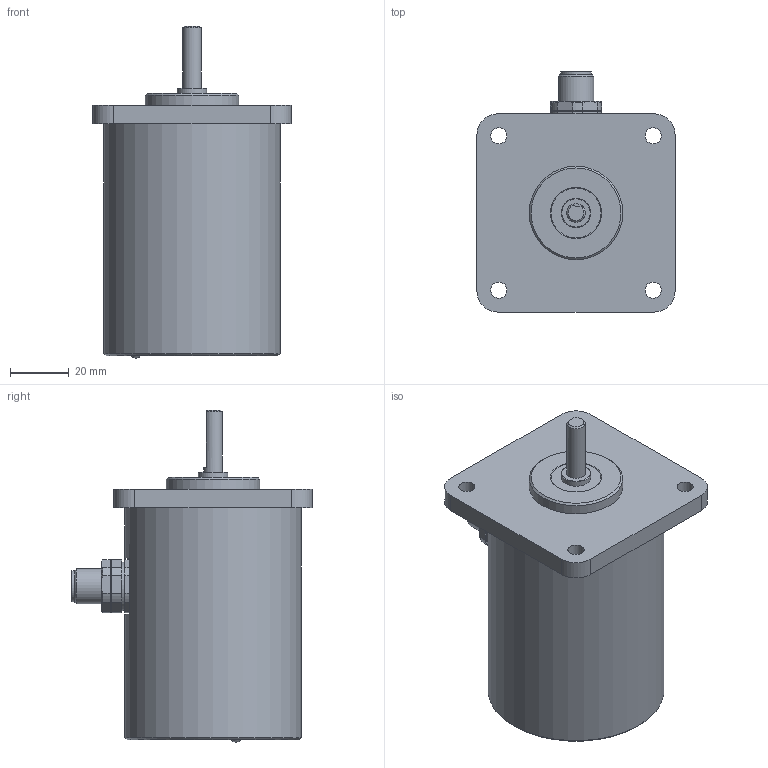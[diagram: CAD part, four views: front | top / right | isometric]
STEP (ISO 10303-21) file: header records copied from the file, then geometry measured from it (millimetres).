
FILE_DESCRIPTION(/* description */ ('Alibre Inc.'),/* implementation_level */ '2;1');
FILE_NAME(/* name */ 'export0',/* time_stamp */ '2016-10-21T14:12:22-04:00',/* author */ (''),/* organization */ (''),/* preprocessor_version */ 'ST-DEVELOPER v14',/* originating_system */ 'Alibre',/* authorisation */ '');
FILE_SCHEMA (('CONFIG_CONTROL_DESIGN'));
Length unit declared in the file: centimetre
Products named in the file (1): ID_1
Bounding box: 67.31 x 81.61 x 112.77 mm (x, y, z)
Volume: 166380.3 mm3; surface area: 45891.5 mm2
Topology: 3 solids, 45 shells, 291 faces, 500 edges, 331 vertices
Faces by surface type: plane 155, cylinder 107, cone 25, bspline 3, torus 1
Full cylindrical faces by diameter (mm): 1.4 x8, 2.87 x2, 3 x37, 5.5 x4, 6.34 x1, 8.3 x1, 9.9 x2, 10 x3, 10.5 x1, 11.8 x1, 12 x1, 13.5 x2, 14 x1, 15.2 x1, 16.5 x1, 17 x1, 20 x1, 26 x1, 31.75 x1, 40 x1, 46 x1, 55.8 x1, 60 x1
Entity records: 6206 total; most frequent: CARTESIAN_POINT 1144, DIRECTION 1003, ORIENTED_EDGE 774, AXIS2_PLACEMENT_3D 502, EDGE_LOOP 434, FACE_BOUND 434, EDGE_CURVE 387, VERTEX_POINT 313
